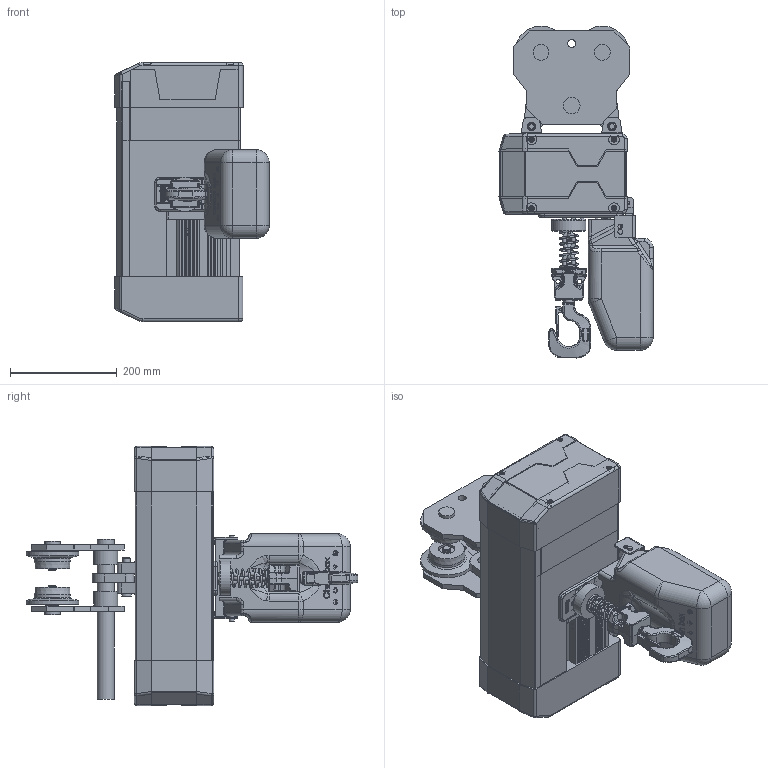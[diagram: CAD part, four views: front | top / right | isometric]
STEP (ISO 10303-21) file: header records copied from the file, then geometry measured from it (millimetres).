
FILE_DESCRIPTION(/* description */ (''),/* implementation_level */ '2;1');
FILE_NAME(/* name */ 'YJ 01-01 手拉式.stp',/* time_stamp */ '2026-07-07T08:13:14+08:00',/* author */ (''),/* organization */ (''),/* preprocessor_version */ 'ST-DEVELOPER v16.7',/* originating_system */ 'SIEMENS PLM Software NX 12.0',/* authorisation */ '');
FILE_SCHEMA (('AP203_CONFIGURATION_CONTROLLED_3D_DESIGN_OF_MECHANICAL_PARTS_AND_ASSEMBLIES_MIM_LF { 1 0 10303 403 2 1 2}'));
Products named in the file (1): AFD4C9D06ndgz
Bounding box: 289.59 x 622.85 x 486.2 mm (x, y, z)
Volume: 13818219.2 mm3; surface area: 1648635.8 mm2
Topology: 35 solids, 44 shells, 3571 faces, 8742 edges, 5312 vertices
Faces by surface type: plane 1351, cylinder 1057, bspline 616, torus 266, cone 185, sphere 96
Full cylindrical faces by diameter (mm): 1.467 x1, 1.707 x1, 2.14 x1, 2.5 x2, 3.4 x2, 4 x2, 4.2 x4, 4.5 x4, 4.826 x4, 5 x2, 5.795 x4, 5.8 x2, 6 x2, 6.2 x2, 6.6 x8, 6.8 x4, 7 x2, 7.1 x34, 7.46 x1, 8.5 x4, 8.6 x4, 9 x6, 10 x4, 10.2 x8, 12.8 x4, 13.5 x4, 13.7 x1, 14 x2, 15 x10, 15.037 x4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
Entity records: 129549 total; most frequent: CARTESIAN_POINT 49004, ORIENTED_EDGE 16320, DIRECTION 14861, EDGE_CURVE 8160, AXIS2_PLACEMENT_3D 5399, VERTEX_POINT 5182, EDGE_LOOP 4212, LINE 4063
